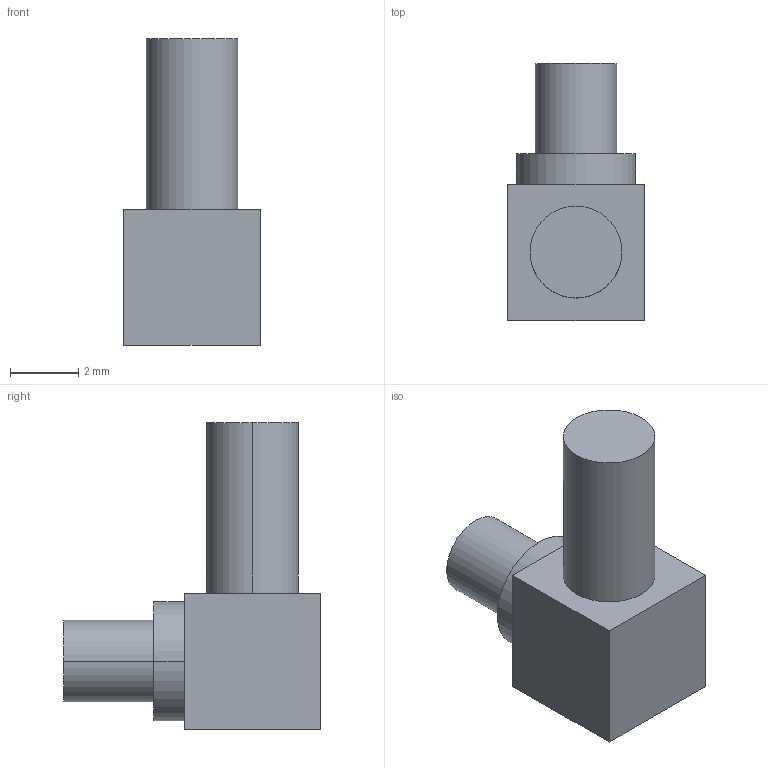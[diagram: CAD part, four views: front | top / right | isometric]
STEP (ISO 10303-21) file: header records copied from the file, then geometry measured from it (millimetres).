
FILE_DESCRIPTION((''),'2;1');
FILE_NAME('GPS-ANT-EXT-MMCX-PLUG_PRT','2008-06-30T',('GRA'),(''),'PRO/ENGINEER BY PARAMETRIC TECHNOLOGY CORPORATION, 2006170','PRO/ENGINEER BY PARAMETRIC TECHNOLOGY CORPORATION, 2006170','');
FILE_SCHEMA(('CONFIG_CONTROL_DESIGN'));
Length unit declared in the file: millimetre
Products named in the file (1): GPS-ANT-EXT-MMCX-PLUG_PRT
Bounding box: 4 x 7.55 x 9 mm (x, y, z)
Volume: 113.3 mm3; surface area: 168.3 mm2
Topology: 1 solids, 1 shells, 15 faces, 30 edges, 20 vertices
Faces by surface type: plane 9, cylinder 6
Entity records: 434 total; most frequent: DIRECTION 72, CARTESIAN_POINT 65, ORIENTED_EDGE 60, EDGE_CURVE 30, AXIS2_PLACEMENT_3D 27, VERTEX_POINT 20, VECTOR 18, LINE 18
